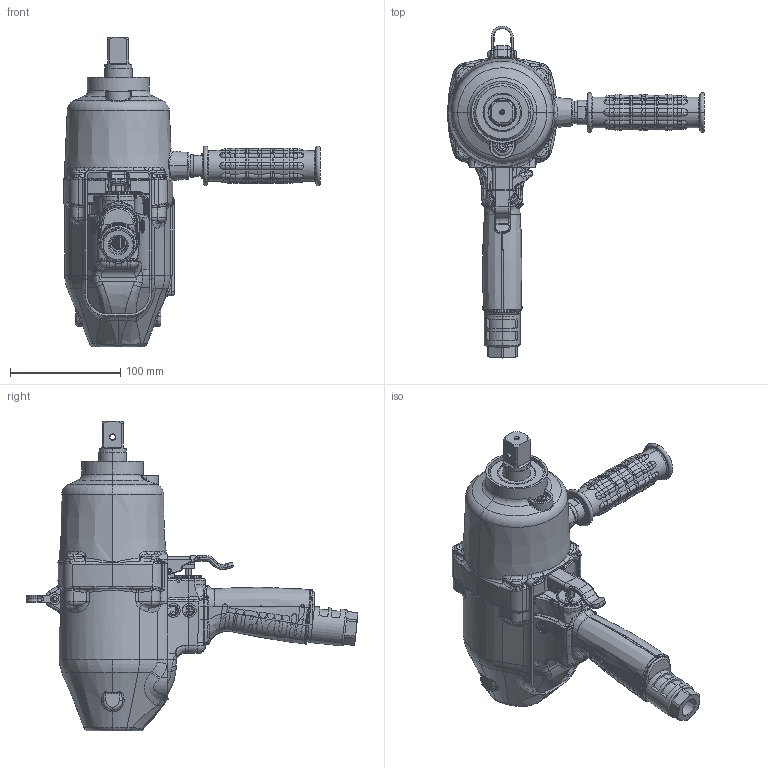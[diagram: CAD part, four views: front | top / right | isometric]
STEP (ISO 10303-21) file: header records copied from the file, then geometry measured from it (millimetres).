
FILE_DESCRIPTION (( 'STEP AP214' ), '1' );
FILE_NAME ('UAT200.STEP', '2014-11-11T01:56:08', ( 'GIKAI' ), ( 'Hewlett-Packard Company' ), 'SwSTEP 2.0', 'SolidWorks 2012', '' );
FILE_SCHEMA (( 'AUTOMOTIVE_DESIGN' ));
Length unit declared in the file: millimetre
Products named in the file (39): 566-720-2-CP; 975-127-0; 962-013-0; 566-720-2; 18H-840-3; 18H-842-3; 130-107-2-DIP; 130-107-2-CP; 130-107-2; 973-120-0; 128-212-2-CP; 948-423-0; 163-106-6; 128-212-2; 163-104-6; 18H-211-3; 18H-210-3; 163-780-6-CP; 163-090-6-M; 163-090-6-K; 163-090-6; 163-042-3; 163-780-6; 18H-025-3-CP; 18H-924-3; 945-941-0; 136-790-7; 136-791-7; 128-108-2; 18H-025-3; 18H-019-3; 18H-439-3-CP; 945-222-0; 18H-867-3; 966-100-0; 194-328-8; 18H-439-3; 18H-319-3; UAT200
Assembly tree (43 placements, depth 3):
  UAT200
    18H-319-3
    18H-439-3-CP
      18H-439-3
      194-328-8
      966-100-0
      18H-867-3
      945-222-0  x4
    18H-025-3-CP
      18H-019-3
      18H-025-3
      128-108-2
      136-791-7
      136-790-7
      945-941-0  x2
      18H-924-3
    163-780-6-CP
      163-780-6
      163-042-3
      163-090-6
      163-090-6-K
      163-090-6-M
    128-212-2-CP
      18H-210-3
      18H-211-3
      163-104-6
      128-212-2
      163-106-6
      948-423-0  x2
    130-107-2-CP
      973-120-0
      130-107-2
    130-107-2-DIP
    18H-842-3
    18H-840-3
    566-720-2-CP
      566-720-2
      962-013-0
      975-127-0
Bounding box: 232.5 x 300.61 x 280.5 mm (x, y, z)
Volume: 600922.2 mm3; surface area: 463878.1 mm2
Topology: 34 solids, 43 shells, 4035 faces, 10167 edges, 6257 vertices
Faces by surface type: cylinder 1252, plane 1160, bspline 799, torus 549, cone 244, sphere 31
Entity records: 206466 total; most frequent: CARTESIAN_POINT 118015, ORIENTED_EDGE 19766, DIRECTION 15857, EDGE_CURVE 9934, AXIS2_PLACEMENT_3D 6297, VERTEX_POINT 6145, EDGE_LOOP 4207, FACE_OUTER_BOUND 3955
